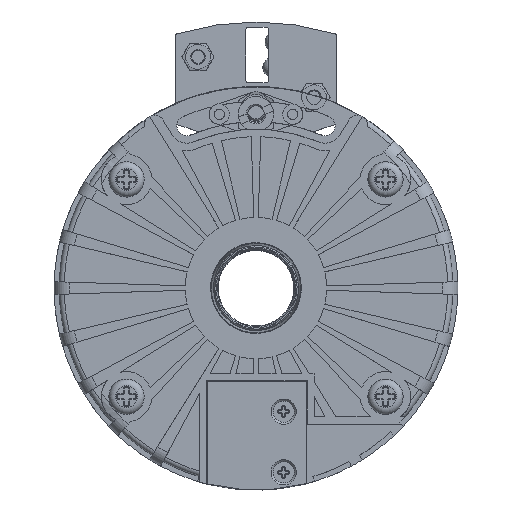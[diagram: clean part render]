
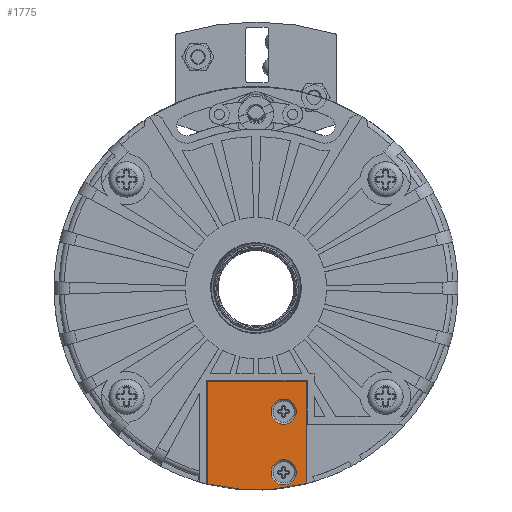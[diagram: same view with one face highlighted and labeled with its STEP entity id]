
A CAD part, top view. The second image highlights one B-rep face of the part: STEP entity #1775.
In plain terms, the highlighted planar face has unit normal (0, 0, 1).
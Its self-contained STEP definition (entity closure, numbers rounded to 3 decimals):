
#1775 = ADVANCED_FACE( '', ( #4672, #4673, #4674 ), #4675, .T. );
#4672 = FACE_OUTER_BOUND( '', #9268, .T. );
#4673 = FACE_BOUND( '', #9269, .T. );
#4674 = FACE_BOUND( '', #9270, .T. );
#4675 = PLANE( '', #9271 );
#9268 = EDGE_LOOP( '', ( #24349, #24350, #24351, #24352 ) );
#9269 = EDGE_LOOP( '', ( #24353 ) );
#9270 = EDGE_LOOP( '', ( #24354 ) );
#9271 = AXIS2_PLACEMENT_3D( '', #24355, #24356, #24357 );
#24349 = ORIENTED_EDGE( '', *, *, #35188, .T. );
#24350 = ORIENTED_EDGE( '', *, *, #35189, .T. );
#24351 = ORIENTED_EDGE( '', *, *, #35190, .T. );
#24352 = ORIENTED_EDGE( '', *, *, #35191, .T. );
#24353 = ORIENTED_EDGE( '', *, *, #35192, .T. );
#24354 = ORIENTED_EDGE( '', *, *, #35193, .T. );
#24355 = CARTESIAN_POINT( '', ( 0., 0., 25. ) );
#24356 = DIRECTION( '', ( 0., 0., 1. ) );
#24357 = DIRECTION( '', ( -1., 0., 0. ) );
#35188 = EDGE_CURVE( '', #40417, #40418, #40419, .T. );
#35189 = EDGE_CURVE( '', #40418, #40420, #40421, .T. );
#35190 = EDGE_CURVE( '', #40420, #40422, #40423, .T. );
#35191 = EDGE_CURVE( '', #40422, #40417, #40424, .T. );
#35192 = EDGE_CURVE( '', #40425, #40425, #40426, .T. );
#35193 = EDGE_CURVE( '', #40427, #40427, #40428, .T. );
#40417 = VERTEX_POINT( '', #48466 );
#40418 = VERTEX_POINT( '', #48467 );
#40419 = LINE( '', #48468, #48469 );
#40420 = VERTEX_POINT( '', #48470 );
#40421 = LINE( '', #48471, #48472 );
#40422 = VERTEX_POINT( '', #48473 );
#40423 = LINE( '', #48474, #48475 );
#40424 = CIRCLE( '', #48476, 40. );
#40425 = VERTEX_POINT( '', #48477 );
#40426 = CIRCLE( '', #48478, 2.5 );
#40427 = VERTEX_POINT( '', #48479 );
#40428 = CIRCLE( '', #48480, 2.5 );
#48466 = CARTESIAN_POINT( '', ( 10., -38.73, 25. ) );
#48467 = CARTESIAN_POINT( '', ( 10., -18.5, 25. ) );
#48468 = CARTESIAN_POINT( '', ( 10., -38.73, 25. ) );
#48469 = VECTOR( '', #59703, 1000. );
#48470 = CARTESIAN_POINT( '', ( -9.7, -18.5, 25. ) );
#48471 = CARTESIAN_POINT( '', ( 10., -18.5, 25. ) );
#48472 = VECTOR( '', #59704, 1000. );
#48473 = CARTESIAN_POINT( '', ( -9.7, -38.806, 25. ) );
#48474 = CARTESIAN_POINT( '', ( -9.7, -38.806, 25. ) );
#48475 = VECTOR( '', #59705, 1000. );
#48476 = AXIS2_PLACEMENT_3D( '', #59706, #59707, #59708 );
#48477 = CARTESIAN_POINT( '', ( 5.5, -39., 25. ) );
#48478 = AXIS2_PLACEMENT_3D( '', #59709, #59710, #59711 );
#48479 = CARTESIAN_POINT( '', ( 5.5, -27., 25. ) );
#48480 = AXIS2_PLACEMENT_3D( '', #59712, #59713, #59714 );
#59703 = DIRECTION( '', ( 0., 1., 0. ) );
#59704 = DIRECTION( '', ( -1., 0., 0. ) );
#59705 = DIRECTION( '', ( 0., -1., 0. ) );
#59706 = CARTESIAN_POINT( '', ( 0., 0., 25. ) );
#59707 = DIRECTION( '', ( 0., 0., 1. ) );
#59708 = DIRECTION( '', ( -1., 0., 0. ) );
#59709 = CARTESIAN_POINT( '', ( 5.5, -36.5, 25. ) );
#59710 = DIRECTION( '', ( 0., 0., -1. ) );
#59711 = DIRECTION( '', ( 0., -1., 0. ) );
#59712 = CARTESIAN_POINT( '', ( 5.5, -24.5, 25. ) );
#59713 = DIRECTION( '', ( 0., 0., -1. ) );
#59714 = DIRECTION( '', ( 0., -1., 0. ) );
